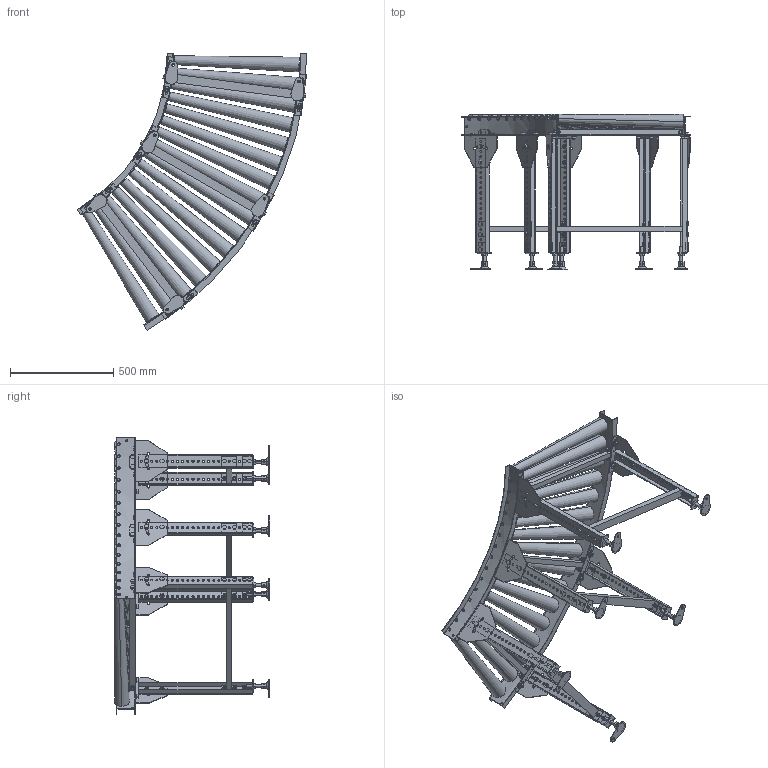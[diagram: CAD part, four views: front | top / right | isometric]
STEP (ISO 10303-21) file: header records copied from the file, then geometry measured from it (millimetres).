
FILE_DESCRIPTION (( 'STEP AP214' ), '1' );
FILE_NAME ('MRT-C9-600-75-60.STEP', '2022-09-28T01:41:39', ( '' ), ( '' ), 'SwSTEP 2.0', 'SolidWorks 2017', '' );
FILE_SCHEMA (( 'AUTOMOTIVE_DESIGN' ));
Length unit declared in the file: millimetre
Products named in the file (1): MRT-C9-600-75-60
Bounding box: 1110 x 750 x 1338.01 mm (x, y, z)
Volume: 31816103.8 mm3; surface area: 4289122.4 mm2
Topology: 28 solids, 58 shells, 3218 faces, 7716 edges, 4856 vertices
Faces by surface type: plane 2298, cylinder 876, cone 44
Entity records: 135444 total; most frequent: CARTESIAN_POINT 22766, DIRECTION 16450, ORIENTED_EDGE 15432, EDGE_CURVE 7716, AXIS2_PLACEMENT_3D 5737, VECTOR 4976, LINE 4976, VERTEX_POINT 4856
